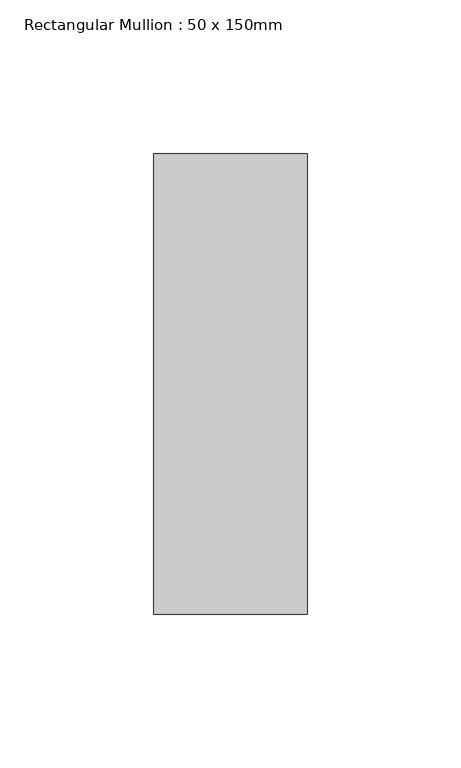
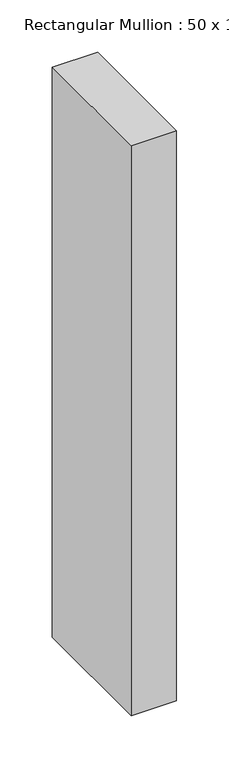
"""IFC4 building model written with IfcOpenShell, lengths in millimetres: member geometry, Rectangular Mullion : 50 x 150mm."""

import ifcopenshell
import ifcopenshell.guid

model = None  # the IFC model being written
_history = None  # IfcOwnerHistory: only IFC2X3 demands one
_inside = {}  # id of a spatial element -> (the spatial element, [elements in it])
_under = {}  # id of a project, library or spatial element -> (it, [spatial elements below it])
_declared = {}  # id of a project -> (the project, [libraries it declares])
_typed = {}  # id of a type object -> (the type object, [elements of that type])
_made_of = {}  # id of a material, layer set ... -> (it, [elements and type objects made of it])


def new_model(schema):
    """Start an empty IFC model of exactly this schema.

    Asked for "IFC4X3", IfcOpenShell would pick the latest addendum, in which some entities
    have other attributes; the version numbers below select the first issue.
    IFC2X3 requires an IfcOwnerHistory on every rooted entity: one is made here for all.
    """
    global model, _history
    if schema == "IFC4X3":
        model = ifcopenshell.file(schema_version=(4, 3, 0, 0))
    else:
        model = ifcopenshell.file(schema=schema)
    _inside.clear()
    _under.clear()
    _declared.clear()
    _typed.clear()
    _made_of.clear()
    _history = None
    if model.schema == "IFC2X3":
        org = make("IfcOrganization", Name="unknown")
        user = make(
            "IfcPersonAndOrganization",
            ThePerson=make("IfcPerson", FamilyName="unknown"),
            TheOrganization=org,
        )
        app = make(
            "IfcApplication",
            ApplicationDeveloper=org,
            Version="unknown",
            ApplicationFullName="unknown",
            ApplicationIdentifier="unknown",
        )
        _history = make(
            "IfcOwnerHistory",
            OwningUser=user,
            OwningApplication=app,
            ChangeAction="ADDED",
            CreationDate=0,
        )
    return model


def make(cls, **values):
    """One entity of the class cls with the attributes given. An attribute that is None is left unset."""
    return model.create_entity(
        cls, **{name: value for name, value in values.items() if value is not None}
    )


def rooted(cls, **values):
    """An entity with a GlobalId (a new one), such as an element, a storey or a relation."""
    return make(cls, GlobalId=ifcopenshell.guid.new(), OwnerHistory=_history, **values)


def si_unit(unit_type, name, prefix=None):
    """IfcSIUnit, for example si_unit("LENGTHUNIT", "METRE", prefix="MILLI")."""
    return make("IfcSIUnit", UnitType=unit_type, Prefix=prefix, Name=name)


def assignment(units):
    """IfcUnitAssignment: the units of a project."""
    return None if units is None else make("IfcUnitAssignment", Units=units)


def point(xyz):
    """IfcCartesianPoint."""
    return None if xyz is None else make("IfcCartesianPoint", Coordinates=xyz)


def direction(xyz):
    """IfcDirection."""
    return None if xyz is None else make("IfcDirection", DirectionRatios=xyz)


def frame(location, z_axis=None, x_axis=None):
    """IfcAxis2Placement3D, a coordinate frame: its origin and axes. An axis left out is left unset."""
    return make(
        "IfcAxis2Placement3D",
        Location=point(location),
        Axis=direction(z_axis),
        RefDirection=direction(x_axis),
    )


def origin():
    """The frame at (0, 0, 0) with its axes left unset."""
    return frame((0.0, 0.0, 0.0))


def place(relative_to, where):
    """IfcLocalPlacement: puts the frame where relative to a parent placement (None: the world)."""
    return make(
        "IfcLocalPlacement", PlacementRelTo=relative_to, RelativePlacement=where
    )


def context(
    kind, dimensions, precision=None, world=None, true_north=None, identifier=None
):
    """IfcGeometricRepresentationContext, for example the 3D "Model" context."""
    return make(
        "IfcGeometricRepresentationContext",
        ContextIdentifier=identifier,
        ContextType=kind,
        CoordinateSpaceDimension=dimensions,
        Precision=precision,
        WorldCoordinateSystem=world,
        TrueNorth=true_north,
    )


def project(units=None, contexts=None):
    """IfcProject with its units and contexts."""
    return rooted(
        "IfcProject",
        Name="project",
        RepresentationContexts=contexts,
        UnitsInContext=assignment(units),
    )


def spatial(cls, under=None, at=None, **own):
    """A site, building, storey or space (cls), placed at a placement, below another one or the project."""
    s = rooted(cls, ObjectPlacement=at, **own)
    if under is not None:
        _under.setdefault(under.id(), (under, []))[1].append(s)
    return s


def polyline(points):
    """IfcPolyline through the points."""
    return make("IfcPolyline", Points=[point(p) for p in points])


def outline(outer, holes=None, kind="AREA"):
    """IfcArbitraryClosedProfileDef: a profile drawn as a closed curve; with holes, ...WithVoids."""
    if holes is None:
        return make("IfcArbitraryClosedProfileDef", ProfileType=kind, OuterCurve=outer)
    return make(
        "IfcArbitraryProfileDefWithVoids",
        ProfileType=kind,
        OuterCurve=outer,
        InnerCurves=holes,
    )


def extrude(swept, where, along, depth):
    """IfcExtrudedAreaSolid: the profile swept, set in the frame where, extruded along a direction by depth."""
    return make(
        "IfcExtrudedAreaSolid",
        SweptArea=swept,
        Position=where,
        ExtrudedDirection=direction(along),
        Depth=depth,
    )


def shape(context_of_items, identifier, shape_type, items):
    """IfcShapeRepresentation: the items that make up one representation, for example the "Body"."""
    return make(
        "IfcShapeRepresentation",
        ContextOfItems=context_of_items,
        RepresentationIdentifier=identifier,
        RepresentationType=shape_type,
        Items=items,
    )


def source(mapping_origin, context_of_items, identifier, shape_type, items):
    """IfcRepresentationMap: a shape defined once, which mapped items show again and again."""
    return make(
        "IfcRepresentationMap",
        MappingOrigin=mapping_origin,
        MappedRepresentation=shape(context_of_items, identifier, shape_type, items),
    )


def transform(
    local_origin,
    x_axis=None,
    y_axis=None,
    z_axis=None,
    scale=None,
    scale2=None,
    scale3=None,
    uniform=True,
):
    """IfcCartesianTransformationOperator3D, or its non-uniform kind. x_axis, y_axis, z_axis: its Axis1, 2, 3."""
    if uniform:
        return make(
            "IfcCartesianTransformationOperator3D",
            Axis1=direction(x_axis),
            Axis2=direction(y_axis),
            LocalOrigin=point(local_origin),
            Scale=scale,
            Axis3=direction(z_axis),
        )
    return make(
        "IfcCartesianTransformationOperator3DnonUniform",
        Axis1=direction(x_axis),
        Axis2=direction(y_axis),
        LocalOrigin=point(local_origin),
        Scale=scale,
        Axis3=direction(z_axis),
        Scale2=scale2,
        Scale3=scale3,
    )


def mapped(mapping_source, mapping_target):
    """IfcMappedItem: shows the shape of a source again, moved by a transform."""
    return make(
        "IfcMappedItem", MappingSource=mapping_source, MappingTarget=mapping_target
    )


def made_of(thing, what):
    """Note that an element or type object is made of a material, layer set ...; save() writes the relation."""
    if what is not None:
        _made_of.setdefault(what.id(), (what, []))[1].append(thing)
    return thing


def element(
    cls,
    number,
    at=None,
    inside=None,
    cuts=None,
    type_object=None,
    material=None,
    context=None,
    identifier="Body",
    shape_type=None,
    held_by="IfcProductDefinitionShape",
    body=None,
    shapes=None,
    **own,
):
    """One element of the class cls, such as IfcWall. Its Tag is "e" and its number.

    at: its placement. inside: the storey or other place that contains it. cuts: it is an
    opening in that element (IfcRelVoidsElement). A single representation is given by context,
    identifier, shape_type and body (its items); several are given by shapes. held_by: the class
    of the entity that holds the representations. save() writes the other relations.
    """
    e = rooted(cls, Tag="e%d" % number, ObjectPlacement=at, **own)
    if body is not None:
        shapes = [shape(context, identifier, shape_type, body)]
    if shapes is not None:
        e.Representation = make(held_by, Representations=shapes)
    if inside is not None:
        _inside.setdefault(inside.id(), (inside, []))[1].append(e)
    if cuts is not None:
        rooted(
            "IfcRelVoidsElement", RelatingBuildingElement=cuts, RelatedOpeningElement=e
        )
    if type_object is not None:
        _typed.setdefault(type_object.id(), (type_object, []))[1].append(e)
    return made_of(e, material)


def aggregate(whole, parts):
    """IfcRelAggregates: a whole, such as a stair, and the parts it consists of."""
    return rooted("IfcRelAggregates", RelatingObject=whole, RelatedObjects=parts)


def save(model, path):
    """Write the relations noted so far, then the file.

    IfcRelAggregates (storeys below a building ...), IfcRelContainedInSpatialStructure (elements
    in a storey), IfcRelDefinesByType, IfcRelAssociatesMaterial and IfcRelDeclares: one each for
    every whole, place, type object, material and project.
    """
    for whole, parts in _under.values():
        aggregate(whole, parts)
    for where, things in _inside.values():
        rooted(
            "IfcRelContainedInSpatialStructure",
            RelatedElements=things,
            RelatingStructure=where,
        )
    for kind, things in _typed.values():
        rooted("IfcRelDefinesByType", RelatedObjects=things, RelatingType=kind)
    for what, things in _made_of.values():
        rooted("IfcRelAssociatesMaterial", RelatedObjects=things, RelatingMaterial=what)
    for by, libraries in _declared.values():
        rooted("IfcRelDeclares", RelatingContext=by, RelatedDefinitions=libraries)
    model.write(path)


def rectangular_mullion_50_x_150mm_a9043509(model_context):
    return source(origin(), model_context, "Body", "SweptSolid", [
        extrude(outline(polyline([(25.0, 75.0), (25.0, -75.0), (-25.0, -75.0), (-25.0, 75.0), (25.0, 75.0)])), frame((0.0, 0.0, -663.5985458), z_axis=(0.0, 0.0, 1.0), x_axis=(1.0, 0.0, 0.0)), (0.0, 0.0, 1.0), 663.5985458),
    ])


if __name__ == "__main__":
    model = new_model("IFC4")
    model_context = context("Model", 3, world=origin())
    ifc_project = project(units=[si_unit("LENGTHUNIT", "METRE", prefix="MILLI")], contexts=[model_context])
    site = spatial("IfcSite", under=ifc_project)
    building = spatial("IfcBuilding", under=site)
    placement = place(None, origin())
    rectangular_mullion_50_x_150mm_shape = rectangular_mullion_50_x_150mm_a9043509(model_context)
    element("IfcMember", 1, ObjectType="Rectangular Mullion : 50 x 150mm", at=placement, inside=building, context=model_context, shape_type="MappedRepresentation", body=[
        mapped(rectangular_mullion_50_x_150mm_shape, transform((0.0, 0.0, 0.0), x_axis=(1.0, 0.0, 0.0), y_axis=(0.0, 1.0, 0.0), z_axis=(0.0, 0.0, 1.0))),
    ])
    save(model, "model.ifc")
